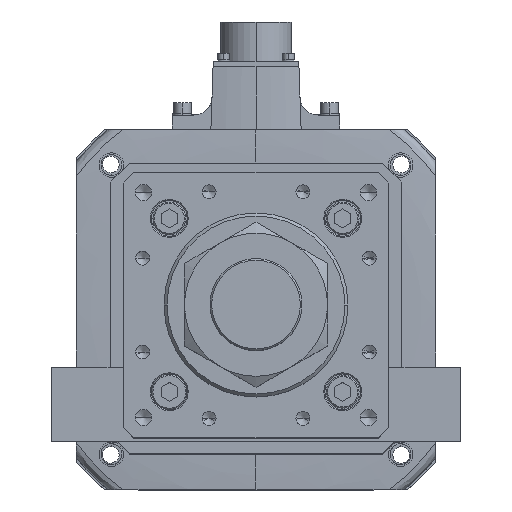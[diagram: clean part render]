
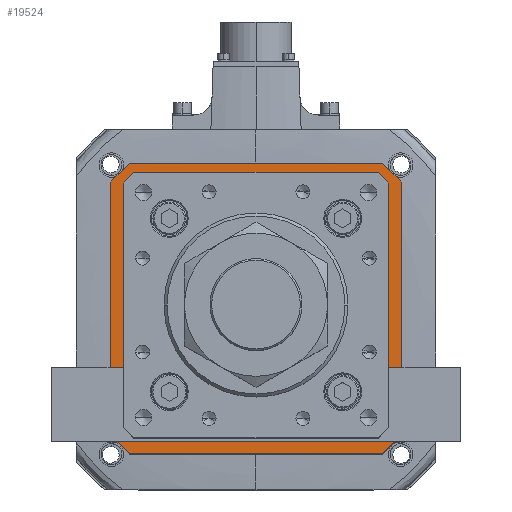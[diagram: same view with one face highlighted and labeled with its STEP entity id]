
A CAD part, top view. The second image highlights one B-rep face of the part: STEP entity #19524.
In plain terms, the highlighted planar face has unit normal (0, 0, 1).
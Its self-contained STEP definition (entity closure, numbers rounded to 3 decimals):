
#361 = VERTEX_POINT ( 'NONE', #2168 ) ;
#517 = VECTOR ( 'NONE', #13138, 1000. ) ;
#630 = DIRECTION ( 'NONE',  ( 0., 1., 0. ) ) ;
#827 = VERTEX_POINT ( 'NONE', #32891 ) ;
#853 = EDGE_CURVE ( 'NONE', #38790, #26525, #10994, .T. ) ;
#2168 = CARTESIAN_POINT ( 'NONE',  ( 63., 58.793, -142. ) ) ;
#2492 = CARTESIAN_POINT ( 'NONE',  ( 63., 0., -142. ) ) ;
#2512 = CARTESIAN_POINT ( 'NONE',  ( -60.896, 60.896, -142. ) ) ;
#3100 = VERTEX_POINT ( 'NONE', #22153 ) ;
#3527 = LINE ( 'NONE', #46746, #32552 ) ;
#3867 = ORIENTED_EDGE ( 'NONE', *, *, #11457, .F. ) ;
#4282 = CARTESIAN_POINT ( 'NONE',  ( -71., -62., -142. ) ) ;
#4695 = CARTESIAN_POINT ( 'NONE',  ( -62., 71., -142. ) ) ;
#5080 = CARTESIAN_POINT ( 'NONE',  ( 62., -71., -142. ) ) ;
#5941 = LINE ( 'NONE', #23882, #16065 ) ;
#5942 = LINE ( 'NONE', #2492, #9283 ) ;
#5970 = DIRECTION ( 'NONE',  ( -0.707, 0.707, 0. ) ) ;
#6126 = ORIENTED_EDGE ( 'NONE', *, *, #46033, .T. ) ;
#6667 = CARTESIAN_POINT ( 'NONE',  ( 60.896, 60.896, -142. ) ) ;
#7219 = DIRECTION ( 'NONE',  ( -0.707, -0.707, 0. ) ) ;
#7385 = LINE ( 'NONE', #6667, #20197 ) ;
#8301 = EDGE_CURVE ( 'NONE', #29524, #15700, #52217, .T. ) ;
#8614 = CARTESIAN_POINT ( 'NONE',  ( 0., 63., -142. ) ) ;
#8832 = DIRECTION ( 'NONE',  ( 0.707, 0.707, 0. ) ) ;
#9283 = VECTOR ( 'NONE', #32702, 1000. ) ;
#9549 = CARTESIAN_POINT ( 'NONE',  ( -60.896, -60.896, -142. ) ) ;
#9550 = CARTESIAN_POINT ( 'NONE',  ( 62., -71., -142. ) ) ;
#9714 = CARTESIAN_POINT ( 'NONE',  ( -63., -58.793, -142. ) ) ;
#10184 = CARTESIAN_POINT ( 'NONE',  ( 62., 71., -142. ) ) ;
#10212 = EDGE_CURVE ( 'NONE', #3100, #40642, #40708, .T. ) ;
#10994 = LINE ( 'NONE', #36857, #36686 ) ;
#11056 = DIRECTION ( 'NONE',  ( -0.707, 0.707, 0. ) ) ;
#11457 = EDGE_CURVE ( 'NONE', #51267, #16385, #54029, .T. ) ;
#11610 = VECTOR ( 'NONE', #19089, 1000. ) ;
#11910 = CARTESIAN_POINT ( 'NONE',  ( -62., 71., -142. ) ) ;
#11936 = VERTEX_POINT ( 'NONE', #48814 ) ;
#12958 = LINE ( 'NONE', #49224, #11610 ) ;
#13138 = DIRECTION ( 'NONE',  ( -1., 0., 0. ) ) ;
#13336 = ORIENTED_EDGE ( 'NONE', *, *, #853, .F. ) ;
#13787 = VERTEX_POINT ( 'NONE', #45722 ) ;
#13792 = DIRECTION ( 'NONE',  ( 1., 0., 0. ) ) ;
#13868 = EDGE_CURVE ( 'NONE', #13787, #15873, #5941, .T. ) ;
#14972 = LINE ( 'NONE', #2512, #43950 ) ;
#15403 = DIRECTION ( 'NONE',  ( 0., 0., 1. ) ) ;
#15437 = EDGE_LOOP ( 'NONE', ( #37233, #50954, #17855, #39749, #29721, #13336, #30599, #3867 ) ) ;
#15639 = CARTESIAN_POINT ( 'NONE',  ( 58.793, -63., -142. ) ) ;
#15700 = VERTEX_POINT ( 'NONE', #9714 ) ;
#15873 = VERTEX_POINT ( 'NONE', #4282 ) ;
#16065 = VECTOR ( 'NONE', #11056, 1000. ) ;
#16385 = VERTEX_POINT ( 'NONE', #46812 ) ;
#16674 = EDGE_CURVE ( 'NONE', #17646, #361, #7385, .T. ) ;
#16923 = CARTESIAN_POINT ( 'NONE',  ( -63., 0., -142. ) ) ;
#17344 = EDGE_CURVE ( 'NONE', #31146, #29524, #34996, .T. ) ;
#17588 = ORIENTED_EDGE ( 'NONE', *, *, #17344, .T. ) ;
#17646 = VERTEX_POINT ( 'NONE', #32005 ) ;
#17765 = VECTOR ( 'NONE', #8832, 1000. ) ;
#17855 = ORIENTED_EDGE ( 'NONE', *, *, #30257, .F. ) ;
#18011 = CARTESIAN_POINT ( 'NONE',  ( -71., 62., -142. ) ) ;
#19089 = DIRECTION ( 'NONE',  ( 0., -1., 0. ) ) ;
#19175 = VECTOR ( 'NONE', #30143, 1000. ) ;
#19305 = DIRECTION ( 'NONE',  ( 0.707, -0.707, 0. ) ) ;
#19524 = ADVANCED_FACE ( 'NONE', ( #42141, #23911 ), #49697, .T. ) ;
#20197 = VECTOR ( 'NONE', #19305, 1000. ) ;
#20957 = AXIS2_PLACEMENT_3D ( 'NONE', #28254, #15403, #32785 ) ;
#21207 = EDGE_CURVE ( 'NONE', #11936, #827, #14972, .T. ) ;
#21319 = ORIENTED_EDGE ( 'NONE', *, *, #54028, .T. ) ;
#22153 = CARTESIAN_POINT ( 'NONE',  ( -71., 62., -142. ) ) ;
#23563 = CARTESIAN_POINT ( 'NONE',  ( -58.793, -63., -142. ) ) ;
#23580 = VECTOR ( 'NONE', #39359, 1000. ) ;
#23882 = CARTESIAN_POINT ( 'NONE',  ( -62., -71., -142. ) ) ;
#23911 = FACE_OUTER_BOUND ( 'NONE', #15437, .T. ) ;
#25703 = ORIENTED_EDGE ( 'NONE', *, *, #16674, .T. ) ;
#26421 = VECTOR ( 'NONE', #54537, 1000. ) ;
#26525 = VERTEX_POINT ( 'NONE', #5080 ) ;
#26582 = LINE ( 'NONE', #16923, #19175 ) ;
#26857 = EDGE_CURVE ( 'NONE', #827, #17646, #54892, .T. ) ;
#27691 = EDGE_CURVE ( 'NONE', #39530, #31146, #3527, .T. ) ;
#28254 = CARTESIAN_POINT ( 'NONE',  ( 0., 0., -142. ) ) ;
#29524 = VERTEX_POINT ( 'NONE', #23563 ) ;
#29721 = ORIENTED_EDGE ( 'NONE', *, *, #29929, .F. ) ;
#29929 = EDGE_CURVE ( 'NONE', #26525, #13787, #39763, .T. ) ;
#30143 = DIRECTION ( 'NONE',  ( 0., 1., 0. ) ) ;
#30257 = EDGE_CURVE ( 'NONE', #15873, #3100, #42035, .T. ) ;
#30599 = ORIENTED_EDGE ( 'NONE', *, *, #50685, .F. ) ;
#31146 = VERTEX_POINT ( 'NONE', #15639 ) ;
#32005 = CARTESIAN_POINT ( 'NONE',  ( 58.793, 63., -142. ) ) ;
#32158 = LINE ( 'NONE', #43581, #35532 ) ;
#32552 = VECTOR ( 'NONE', #37643, 1000. ) ;
#32702 = DIRECTION ( 'NONE',  ( 0., -1., 0. ) ) ;
#32785 = DIRECTION ( 'NONE',  ( 1., 0., 0. ) ) ;
#32891 = CARTESIAN_POINT ( 'NONE',  ( -58.793, 63., -142. ) ) ;
#34996 = LINE ( 'NONE', #38635, #517 ) ;
#35532 = VECTOR ( 'NONE', #13792, 1000. ) ;
#35537 = ORIENTED_EDGE ( 'NONE', *, *, #8301, .T. ) ;
#35915 = CARTESIAN_POINT ( 'NONE',  ( 63., -58.793, -142. ) ) ;
#36093 = ORIENTED_EDGE ( 'NONE', *, *, #21207, .T. ) ;
#36686 = VECTOR ( 'NONE', #7219, 1000. ) ;
#36857 = CARTESIAN_POINT ( 'NONE',  ( 71., -62., -142. ) ) ;
#37233 = ORIENTED_EDGE ( 'NONE', *, *, #47494, .F. ) ;
#37598 = ORIENTED_EDGE ( 'NONE', *, *, #27691, .T. ) ;
#37643 = DIRECTION ( 'NONE',  ( -0.707, -0.707, 0. ) ) ;
#37843 = CARTESIAN_POINT ( 'NONE',  ( 71., 62., -142. ) ) ;
#38635 = CARTESIAN_POINT ( 'NONE',  ( 0., -63., -142. ) ) ;
#38790 = VERTEX_POINT ( 'NONE', #55330 ) ;
#39289 = VECTOR ( 'NONE', #630, 1000. ) ;
#39359 = DIRECTION ( 'NONE',  ( -1., 0., 0. ) ) ;
#39530 = VERTEX_POINT ( 'NONE', #35915 ) ;
#39749 = ORIENTED_EDGE ( 'NONE', *, *, #13868, .F. ) ;
#39763 = LINE ( 'NONE', #9550, #23580 ) ;
#40642 = VERTEX_POINT ( 'NONE', #11910 ) ;
#40708 = LINE ( 'NONE', #4695, #17765 ) ;
#40812 = VECTOR ( 'NONE', #5970, 1000. ) ;
#42035 = LINE ( 'NONE', #18011, #39289 ) ;
#42141 = FACE_BOUND ( 'NONE', #48267, .T. ) ;
#43417 = VECTOR ( 'NONE', #47404, 1000. ) ;
#43581 = CARTESIAN_POINT ( 'NONE',  ( 62., 71., -142. ) ) ;
#43950 = VECTOR ( 'NONE', #50564, 1000. ) ;
#45722 = CARTESIAN_POINT ( 'NONE',  ( -62., -71., -142. ) ) ;
#46033 = EDGE_CURVE ( 'NONE', #15700, #11936, #26582, .T. ) ;
#46746 = CARTESIAN_POINT ( 'NONE',  ( 60.896, -60.896, -142. ) ) ;
#46812 = CARTESIAN_POINT ( 'NONE',  ( 71., 62., -142. ) ) ;
#47404 = DIRECTION ( 'NONE',  ( 1., 0., 0. ) ) ;
#47494 = EDGE_CURVE ( 'NONE', #40642, #51267, #32158, .T. ) ;
#48267 = EDGE_LOOP ( 'NONE', ( #21319, #37598, #17588, #35537, #6126, #36093, #52973, #25703 ) ) ;
#48814 = CARTESIAN_POINT ( 'NONE',  ( -63., 58.793, -142. ) ) ;
#49224 = CARTESIAN_POINT ( 'NONE',  ( 71., 62., -142. ) ) ;
#49697 = PLANE ( 'NONE',  #20957 ) ;
#50564 = DIRECTION ( 'NONE',  ( 0.707, 0.707, 0. ) ) ;
#50685 = EDGE_CURVE ( 'NONE', #16385, #38790, #12958, .T. ) ;
#50954 = ORIENTED_EDGE ( 'NONE', *, *, #10212, .F. ) ;
#51267 = VERTEX_POINT ( 'NONE', #10184 ) ;
#52217 = LINE ( 'NONE', #9549, #40812 ) ;
#52973 = ORIENTED_EDGE ( 'NONE', *, *, #26857, .T. ) ;
#54028 = EDGE_CURVE ( 'NONE', #361, #39530, #5942, .T. ) ;
#54029 = LINE ( 'NONE', #37843, #26421 ) ;
#54537 = DIRECTION ( 'NONE',  ( 0.707, -0.707, 0. ) ) ;
#54892 = LINE ( 'NONE', #8614, #43417 ) ;
#55330 = CARTESIAN_POINT ( 'NONE',  ( 71., -62., -142. ) ) ;
